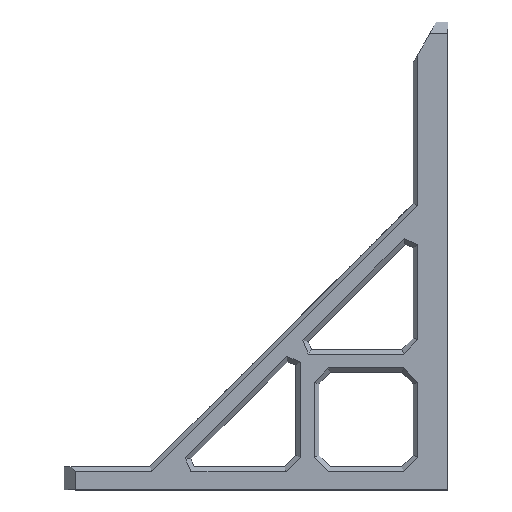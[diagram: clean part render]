
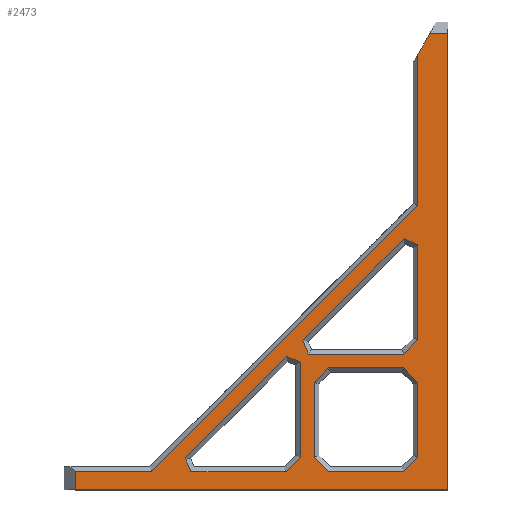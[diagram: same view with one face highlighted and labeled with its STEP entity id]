
A CAD part, left-side view. The second image highlights one B-rep face of the part: STEP entity #2473.
In plain terms, the highlighted planar face has unit normal (-1, 0, 0).
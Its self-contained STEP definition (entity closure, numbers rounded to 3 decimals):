
#55=FACE_BOUND('',#306,.T.);
#56=FACE_BOUND('',#307,.T.);
#57=FACE_BOUND('',#308,.T.);
#149=FACE_OUTER_BOUND('',#305,.T.);
#305=EDGE_LOOP('',(#1912,#1913,#1914,#1915,#1916,#1917,#1918,#1919));
#306=EDGE_LOOP('',(#1920,#1921,#1922,#1923,#1924,#1925));
#307=EDGE_LOOP('',(#1926,#1927,#1928,#1929,#1930,#1931));
#308=EDGE_LOOP('',(#1932,#1933,#1934,#1935,#1936,#1937,#1938,#1939));
#526=LINE('',#3699,#846);
#530=LINE('',#3707,#850);
#533=LINE('',#3713,#853);
#537=LINE('',#3721,#857);
#540=LINE('',#3727,#860);
#543=LINE('',#3733,#863);
#546=LINE('',#3739,#866);
#549=LINE('',#3743,#869);
#559=LINE('',#3765,#879);
#560=LINE('',#3767,#880);
#561=LINE('',#3769,#881);
#562=LINE('',#3771,#882);
#563=LINE('',#3773,#883);
#564=LINE('',#3775,#884);
#565=LINE('',#3777,#885);
#566=LINE('',#3778,#886);
#567=LINE('',#3781,#887);
#568=LINE('',#3783,#888);
#569=LINE('',#3785,#889);
#570=LINE('',#3787,#890);
#571=LINE('',#3789,#891);
#572=LINE('',#3790,#892);
#573=LINE('',#3793,#893);
#574=LINE('',#3795,#894);
#575=LINE('',#3797,#895);
#576=LINE('',#3799,#896);
#577=LINE('',#3801,#897);
#578=LINE('',#3802,#898);
#846=VECTOR('',#3026,10.);
#850=VECTOR('',#3032,10.);
#853=VECTOR('',#3037,10.);
#857=VECTOR('',#3043,10.);
#860=VECTOR('',#3048,10.);
#863=VECTOR('',#3053,10.);
#866=VECTOR('',#3058,10.);
#869=VECTOR('',#3063,10.);
#879=VECTOR('',#3083,10.);
#880=VECTOR('',#3084,10.);
#881=VECTOR('',#3085,10.);
#882=VECTOR('',#3086,10.);
#883=VECTOR('',#3087,10.);
#884=VECTOR('',#3088,10.);
#885=VECTOR('',#3089,10.);
#886=VECTOR('',#3090,10.);
#887=VECTOR('',#3091,10.);
#888=VECTOR('',#3092,10.);
#889=VECTOR('',#3093,10.);
#890=VECTOR('',#3094,10.);
#891=VECTOR('',#3095,10.);
#892=VECTOR('',#3096,10.);
#893=VECTOR('',#3097,10.);
#894=VECTOR('',#3098,10.);
#895=VECTOR('',#3099,10.);
#896=VECTOR('',#3100,10.);
#897=VECTOR('',#3101,10.);
#898=VECTOR('',#3102,10.);
#1128=VERTEX_POINT('',#3697);
#1129=VERTEX_POINT('',#3698);
#1132=VERTEX_POINT('',#3706);
#1134=VERTEX_POINT('',#3712);
#1137=VERTEX_POINT('',#3720);
#1139=VERTEX_POINT('',#3726);
#1141=VERTEX_POINT('',#3732);
#1143=VERTEX_POINT('',#3738);
#1149=VERTEX_POINT('',#3763);
#1150=VERTEX_POINT('',#3764);
#1151=VERTEX_POINT('',#3766);
#1152=VERTEX_POINT('',#3768);
#1153=VERTEX_POINT('',#3770);
#1154=VERTEX_POINT('',#3772);
#1155=VERTEX_POINT('',#3774);
#1156=VERTEX_POINT('',#3776);
#1157=VERTEX_POINT('',#3779);
#1158=VERTEX_POINT('',#3780);
#1159=VERTEX_POINT('',#3782);
#1160=VERTEX_POINT('',#3784);
#1161=VERTEX_POINT('',#3786);
#1162=VERTEX_POINT('',#3788);
#1163=VERTEX_POINT('',#3791);
#1164=VERTEX_POINT('',#3792);
#1165=VERTEX_POINT('',#3794);
#1166=VERTEX_POINT('',#3796);
#1167=VERTEX_POINT('',#3798);
#1168=VERTEX_POINT('',#3800);
#1391=EDGE_CURVE('',#1128,#1129,#526,.T.);
#1395=EDGE_CURVE('',#1129,#1132,#530,.T.);
#1398=EDGE_CURVE('',#1132,#1134,#533,.T.);
#1402=EDGE_CURVE('',#1134,#1137,#537,.T.);
#1405=EDGE_CURVE('',#1137,#1139,#540,.T.);
#1408=EDGE_CURVE('',#1139,#1141,#543,.T.);
#1411=EDGE_CURVE('',#1141,#1143,#546,.T.);
#1414=EDGE_CURVE('',#1143,#1128,#549,.T.);
#1424=EDGE_CURVE('',#1149,#1150,#559,.T.);
#1425=EDGE_CURVE('',#1151,#1149,#560,.T.);
#1426=EDGE_CURVE('',#1152,#1151,#561,.T.);
#1427=EDGE_CURVE('',#1153,#1152,#562,.T.);
#1428=EDGE_CURVE('',#1153,#1154,#563,.T.);
#1429=EDGE_CURVE('',#1154,#1155,#564,.T.);
#1430=EDGE_CURVE('',#1156,#1155,#565,.T.);
#1431=EDGE_CURVE('',#1156,#1150,#566,.T.);
#1432=EDGE_CURVE('',#1157,#1158,#567,.T.);
#1433=EDGE_CURVE('',#1159,#1157,#568,.T.);
#1434=EDGE_CURVE('',#1160,#1159,#569,.T.);
#1435=EDGE_CURVE('',#1161,#1160,#570,.T.);
#1436=EDGE_CURVE('',#1162,#1161,#571,.T.);
#1437=EDGE_CURVE('',#1158,#1162,#572,.T.);
#1438=EDGE_CURVE('',#1163,#1164,#573,.T.);
#1439=EDGE_CURVE('',#1165,#1163,#574,.T.);
#1440=EDGE_CURVE('',#1166,#1165,#575,.T.);
#1441=EDGE_CURVE('',#1167,#1166,#576,.T.);
#1442=EDGE_CURVE('',#1168,#1167,#577,.T.);
#1443=EDGE_CURVE('',#1164,#1168,#578,.T.);
#1912=ORIENTED_EDGE('',*,*,#1424,.F.);
#1913=ORIENTED_EDGE('',*,*,#1425,.F.);
#1914=ORIENTED_EDGE('',*,*,#1426,.F.);
#1915=ORIENTED_EDGE('',*,*,#1427,.F.);
#1916=ORIENTED_EDGE('',*,*,#1428,.T.);
#1917=ORIENTED_EDGE('',*,*,#1429,.T.);
#1918=ORIENTED_EDGE('',*,*,#1430,.F.);
#1919=ORIENTED_EDGE('',*,*,#1431,.T.);
#1920=ORIENTED_EDGE('',*,*,#1432,.F.);
#1921=ORIENTED_EDGE('',*,*,#1433,.F.);
#1922=ORIENTED_EDGE('',*,*,#1434,.F.);
#1923=ORIENTED_EDGE('',*,*,#1435,.F.);
#1924=ORIENTED_EDGE('',*,*,#1436,.F.);
#1925=ORIENTED_EDGE('',*,*,#1437,.F.);
#1926=ORIENTED_EDGE('',*,*,#1438,.F.);
#1927=ORIENTED_EDGE('',*,*,#1439,.F.);
#1928=ORIENTED_EDGE('',*,*,#1440,.F.);
#1929=ORIENTED_EDGE('',*,*,#1441,.F.);
#1930=ORIENTED_EDGE('',*,*,#1442,.F.);
#1931=ORIENTED_EDGE('',*,*,#1443,.F.);
#1932=ORIENTED_EDGE('',*,*,#1391,.F.);
#1933=ORIENTED_EDGE('',*,*,#1414,.F.);
#1934=ORIENTED_EDGE('',*,*,#1411,.F.);
#1935=ORIENTED_EDGE('',*,*,#1408,.F.);
#1936=ORIENTED_EDGE('',*,*,#1405,.F.);
#1937=ORIENTED_EDGE('',*,*,#1402,.F.);
#1938=ORIENTED_EDGE('',*,*,#1398,.F.);
#1939=ORIENTED_EDGE('',*,*,#1395,.F.);
#2331=PLANE('',#2650);
#2473=ADVANCED_FACE('',(#149,#55,#56,#57),#2331,.T.);
#2650=AXIS2_PLACEMENT_3D('',#3762,#3081,#3082);
#3026=DIRECTION('',(0.,-1.,0.));
#3032=DIRECTION('',(0.,-0.707,0.707));
#3037=DIRECTION('',(0.,0.,1.));
#3043=DIRECTION('',(0.,0.707,0.707));
#3048=DIRECTION('',(0.,1.,0.));
#3053=DIRECTION('',(0.,0.707,-0.707));
#3058=DIRECTION('',(0.,0.,-1.));
#3063=DIRECTION('',(0.,-0.707,-0.707));
#3081=DIRECTION('center_axis',(-1.,0.,0.));
#3082=DIRECTION('ref_axis',(0.,0.,1.));
#3083=DIRECTION('',(0.,0.,1.));
#3084=DIRECTION('',(0.,-0.707,0.707));
#3085=DIRECTION('',(0.,-1.,0.));
#3086=DIRECTION('',(0.,0.,1.));
#3087=DIRECTION('',(0.,-1.,0.));
#3088=DIRECTION('',(0.,0.,1.));
#3089=DIRECTION('',(0.,-1.,0.));
#3090=DIRECTION('',(0.,0.494,-0.869));
#3091=DIRECTION('',(0.,-1.,0.));
#3092=DIRECTION('',(0.,-0.383,-0.924));
#3093=DIRECTION('',(0.,0.707,-0.707));
#3094=DIRECTION('',(0.,0.924,0.383));
#3095=DIRECTION('',(0.,0.,1.));
#3096=DIRECTION('',(0.,-0.707,0.707));
#3097=DIRECTION('',(0.,0.,1.));
#3098=DIRECTION('',(0.,-0.707,0.707));
#3099=DIRECTION('',(0.,-1.,0.));
#3100=DIRECTION('',(0.,-0.383,-0.924));
#3101=DIRECTION('',(0.,0.707,-0.707));
#3102=DIRECTION('',(0.,0.924,0.383));
#3697=CARTESIAN_POINT('',(11.856,46.828,-93.6));
#3698=CARTESIAN_POINT('',(11.856,14.172,-93.6));
#3699=CARTESIAN_POINT('',(11.856,45.4,-93.6));
#3706=CARTESIAN_POINT('',(11.856,8.,-87.428));
#3707=CARTESIAN_POINT('',(11.856,5.886,-85.314));
#3712=CARTESIAN_POINT('',(11.856,8.,-54.772));
#3713=CARTESIAN_POINT('',(11.856,8.,-25.3));
#3720=CARTESIAN_POINT('',(11.856,14.172,-48.6));
#3721=CARTESIAN_POINT('',(11.856,41.436,-21.336));
#3726=CARTESIAN_POINT('',(11.856,46.828,-48.6));
#3727=CARTESIAN_POINT('',(11.856,65.9,-48.6));
#3732=CARTESIAN_POINT('',(11.856,53.,-54.772));
#3733=CARTESIAN_POINT('',(11.856,44.714,-46.486));
#3738=CARTESIAN_POINT('',(11.856,53.,-87.428));
#3739=CARTESIAN_POINT('',(11.856,53.,-45.8));
#3743=CARTESIAN_POINT('',(11.856,80.264,-60.164));
#3762=CARTESIAN_POINT('Origin',(11.856,80.8,0.));
#3763=CARTESIAN_POINT('',(11.856,8.,21.922));
#3764=CARTESIAN_POINT('',(11.856,8.,87.52));
#3765=CARTESIAN_POINT('',(11.856,8.,42.));
#3766=CARTESIAN_POINT('',(11.856,123.522,-93.6));
#3767=CARTESIAN_POINT('',(11.856,31.973,-2.051));
#3768=CARTESIAN_POINT('',(11.856,156.6,-93.6));
#3769=CARTESIAN_POINT('',(11.856,102.575,-93.6));
#3770=CARTESIAN_POINT('',(11.856,156.6,-101.6));
#3771=CARTESIAN_POINT('',(11.856,156.6,-45.8));
#3772=CARTESIAN_POINT('',(11.856,-5.,-101.6));
#3773=CARTESIAN_POINT('',(11.856,0.,-101.6));
#3774=CARTESIAN_POINT('',(11.856,-5.,96.6));
#3775=CARTESIAN_POINT('',(11.856,-5.,50.8));
#3776=CARTESIAN_POINT('',(11.856,2.841,96.6));
#3777=CARTESIAN_POINT('',(11.856,40.4,96.6));
#3778=CARTESIAN_POINT('',(11.856,10.,84.));
#3779=CARTESIAN_POINT('',(11.856,55.545,-42.6));
#3780=CARTESIAN_POINT('',(11.856,14.172,-42.6));
#3781=CARTESIAN_POINT('',(11.856,45.4,-42.6));
#3782=CARTESIAN_POINT('',(11.856,58.032,-36.595));
#3783=CARTESIAN_POINT('',(11.856,65.546,-18.454));
#3784=CARTESIAN_POINT('',(11.856,14.005,7.432));
#3785=CARTESIAN_POINT('',(11.856,55.87,-34.434));
#3786=CARTESIAN_POINT('',(11.856,8.,4.945));
#3787=CARTESIAN_POINT('',(11.856,39.696,18.074));
#3788=CARTESIAN_POINT('',(11.856,8.,-36.428));
#3789=CARTESIAN_POINT('',(11.856,8.,4.304));
#3790=CARTESIAN_POINT('',(11.856,18.636,-47.064));
#3791=CARTESIAN_POINT('',(11.856,59.,-87.428));
#3792=CARTESIAN_POINT('',(11.856,59.,-46.055));
#3793=CARTESIAN_POINT('',(11.856,59.,-21.196));
#3794=CARTESIAN_POINT('',(11.856,65.172,-93.6));
#3795=CARTESIAN_POINT('',(11.856,44.136,-72.564));
#3796=CARTESIAN_POINT('',(11.856,106.545,-93.6));
#3797=CARTESIAN_POINT('',(11.856,70.9,-93.6));
#3798=CARTESIAN_POINT('',(11.856,109.032,-87.595));
#3799=CARTESIAN_POINT('',(11.856,121.828,-56.704));
#3800=CARTESIAN_POINT('',(11.856,65.005,-43.568));
#3801=CARTESIAN_POINT('',(11.856,81.37,-59.934));
#3802=CARTESIAN_POINT('',(11.856,77.946,-38.208));
